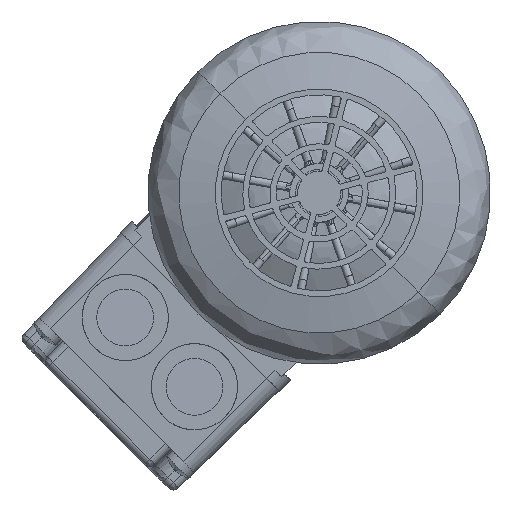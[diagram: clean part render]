
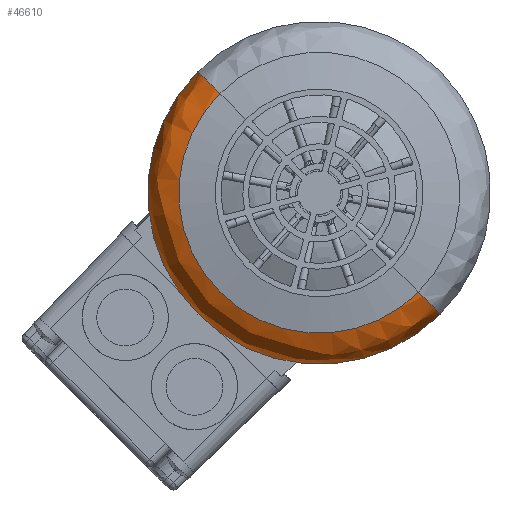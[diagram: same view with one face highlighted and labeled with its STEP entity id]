
A CAD part, left-side view. The second image highlights one B-rep face of the part: STEP entity #46610.
In plain terms, the highlighted free-form (B-spline) face has degree [3, 3] with [4, 4] control points.
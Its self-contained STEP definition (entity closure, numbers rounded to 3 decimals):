
#1755 = EDGE_CURVE ( 'NONE', #42479, #44239, #71804, .T. ) ;
#5259 = FACE_OUTER_BOUND ( 'NONE', #33423, .T. ) ;
#5440 = CARTESIAN_POINT ( 'NONE',  ( 35.829, 71.658, -141.517 ) ) ;
#6278 = AXIS2_PLACEMENT_3D ( 'NONE', #27455, #66986, #33112 ) ;
#7502 = CARTESIAN_POINT ( 'NONE',  ( 43.75, 0., -131.736 ) ) ;
#10664 = CARTESIAN_POINT ( 'NONE',  ( 43.75, 0., -131.736 ) ) ;
#10896 = CARTESIAN_POINT ( 'NONE',  ( -43.75, 87.5, -131.736 ) ) ;
#11142 = CARTESIAN_POINT ( 'NONE',  ( -35.829, 0., -141.517 ) ) ;
#16549 = CARTESIAN_POINT ( 'NONE',  ( 43.75, 0., -136.663 ) ) ;
#16565 = AXIS2_PLACEMENT_3D ( 'NONE', #61739, #27942, #67468 ) ;
#21874 = CARTESIAN_POINT ( 'NONE',  ( 35.829, 0., -141.517 ) ) ;
#22211 = CARTESIAN_POINT ( 'NONE',  ( -43.75, 87.5, -136.663 ) ) ;
#23988 = VERTEX_POINT ( 'NONE', #7502 ) ;
#24613 = CIRCLE ( 'NONE', #24766, 43.75 ) ;
#24766 = AXIS2_PLACEMENT_3D ( 'NONE', #27245, #66770, #32896 ) ;
#25639 = EDGE_CURVE ( 'NONE', #23988, #60088, #40174, .T. ) ;
#25987 = DIRECTION ( 'NONE',  ( 0., -1., 0. ) ) ;
#27245 = CARTESIAN_POINT ( 'NONE',  ( 0., 0., -131.736 ) ) ;
#27455 = CARTESIAN_POINT ( 'NONE',  ( 0., 0., -141.517 ) ) ;
#27933 = CARTESIAN_POINT ( 'NONE',  ( 40.649, 0., -140.493 ) ) ;
#27942 = DIRECTION ( 'NONE',  ( 0., 1., 0. ) ) ;
#28661 = EDGE_CURVE ( 'NONE', #60088, #44239, #52435, .T. ) ;
#32896 = DIRECTION ( 'NONE',  ( 1., 0., 0. ) ) ;
#33112 = DIRECTION ( 'NONE',  ( 1., 0., 0. ) ) ;
#33423 = EDGE_LOOP ( 'NONE', ( #36460, #69515, #42041, #39367 ) ) ;
#33588 = CARTESIAN_POINT ( 'NONE',  ( -40.649, 81.298, -140.493 ) ) ;
#36460 = ORIENTED_EDGE ( 'NONE', *, *, #1755, .F. ) ;
#39287 = CARTESIAN_POINT ( 'NONE',  ( 35.829, 0., -141.517 ) ) ;
#39367 = ORIENTED_EDGE ( 'NONE', *, *, #28661, .T. ) ;
#40174 = CIRCLE ( 'NONE', #16565, 10. ) ;
#42041 = ORIENTED_EDGE ( 'NONE', *, *, #25639, .T. ) ;
#42479 = VERTEX_POINT ( 'NONE', #50433 ) ;
#44239 = VERTEX_POINT ( 'NONE', #62190 ) ;
#44690 = CARTESIAN_POINT ( 'NONE',  ( 43.75, 87.5, -131.736 ) ) ;
#44932 = CARTESIAN_POINT ( 'NONE',  ( -35.829, 71.658, -141.517 ) ) ;
#46610 = ADVANCED_FACE ( 'NONE', ( #5259 ), #53530, .T. ) ;
#50325 = EDGE_CURVE ( 'NONE', #23988, #42479, #24613, .T. ) ;
#50367 = CARTESIAN_POINT ( 'NONE',  ( -43.75, 0., -131.736 ) ) ;
#50433 = CARTESIAN_POINT ( 'NONE',  ( -43.75, 0., -131.736 ) ) ;
#52435 = CIRCLE ( 'NONE', #6278, 35.829 ) ;
#53530 =( BOUNDED_SURFACE ( )  B_SPLINE_SURFACE ( 3, 3, ( 
 ( #10664, #44690, #10896, #50367 ),
 ( #16549, #56044, #22211, #61731 ),
 ( #27933, #67461, #33588, #73192 ),
 ( #39287, #5440, #44932, #11142 ) ),
 .UNSPECIFIED., .F., .F., .F. ) 
 B_SPLINE_SURFACE_WITH_KNOTS ( ( 4, 4 ),
 ( 4, 4 ),
 ( 0., 1. ),
 ( 0., 1. ),
 .UNSPECIFIED. ) 
 GEOMETRIC_REPRESENTATION_ITEM ( )  RATIONAL_B_SPLINE_SURFACE ( (
 ( 1., 0.333, 0.333, 1.),
 ( 0.851, 0.284, 0.284, 0.851),
 ( 0.851, 0.284, 0.284, 0.851),
 ( 1., 0.333, 0.333, 1.) ) ) 
 REPRESENTATION_ITEM ( '' )  SURFACE ( )  );
#56044 = CARTESIAN_POINT ( 'NONE',  ( 43.75, 87.5, -136.663 ) ) ;
#59782 = CARTESIAN_POINT ( 'NONE',  ( -33.75, 0., -131.736 ) ) ;
#60088 = VERTEX_POINT ( 'NONE', #21874 ) ;
#61731 = CARTESIAN_POINT ( 'NONE',  ( -43.75, 0., -136.663 ) ) ;
#61739 = CARTESIAN_POINT ( 'NONE',  ( 33.75, 0., -131.736 ) ) ;
#62190 = CARTESIAN_POINT ( 'NONE',  ( -35.829, 0., -141.517 ) ) ;
#65508 = DIRECTION ( 'NONE',  ( -1., 0., 0. ) ) ;
#66770 = DIRECTION ( 'NONE',  ( 0., 0., 1. ) ) ;
#66986 = DIRECTION ( 'NONE',  ( 0., 0., 1. ) ) ;
#67461 = CARTESIAN_POINT ( 'NONE',  ( 40.649, 81.298, -140.493 ) ) ;
#67468 = DIRECTION ( 'NONE',  ( 1., 0., 0. ) ) ;
#69515 = ORIENTED_EDGE ( 'NONE', *, *, #50325, .F. ) ;
#71303 = AXIS2_PLACEMENT_3D ( 'NONE', #59782, #25987, #65508 ) ;
#71804 = CIRCLE ( 'NONE', #71303, 10. ) ;
#73192 = CARTESIAN_POINT ( 'NONE',  ( -40.649, 0., -140.493 ) ) ;
